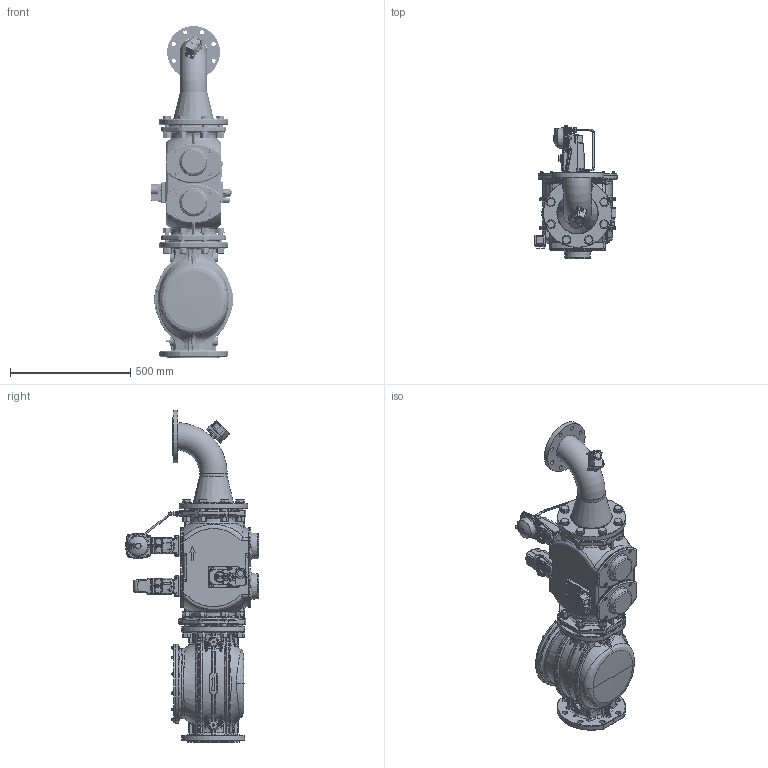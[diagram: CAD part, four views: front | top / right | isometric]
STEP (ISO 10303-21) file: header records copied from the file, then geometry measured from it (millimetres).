
FILE_DESCRIPTION (( 'STEP AP214' ), '1' );
FILE_NAME ('19990626.STEP', '2025-02-20T11:35:21', ( '' ), ( '' ), 'SwSTEP 2.0', 'SolidWorks 2021', '' );
FILE_SCHEMA (( 'AUTOMOTIVE_DESIGN' ));
Length unit declared in the file: millimetre
Products named in the file (1): 19990626
Bounding box: 341.2 x 553.8 x 1381.4 mm (x, y, z)
Volume: 40978235.9 mm3; surface area: 3328649.6 mm2
Topology: 120 solids, 145 shells, 8088 faces, 19527 edges, 11918 vertices
Faces by surface type: plane 2412, cylinder 2259, bspline 2244, cone 824, torus 289, sphere 60
Full cylindrical faces by diameter (mm): 1.5 x2, 2 x2, 3 x1, 3.1 x1, 3.838 x3, 4 x6, 4.2 x1, 4.3 x12, 4.35 x4, 4.351 x4, 4.8 x1, 5 x10, 5.795 x8, 5.9 x1, 6 x8, 6.2 x1, 6.4 x4, 6.8 x12, 7 x4, 7.794 x16, 8 x32, 8.3 x16, 8.5 x14, 8.55 x1, 8.8 x1, 9 x12, 9.5 x1, 9.73 x1, 9.917 x12, 10 x10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
Entity records: 487846 total; most frequent: CARTESIAN_POINT 237060, ORIENTED_EDGE 35702, DIRECTION 27582, EDGE_CURVE 17851, VERTEX_POINT 11433, AXIS2_PLACEMENT_3D 10942, EDGE_LOOP 9938, FACE_OUTER_BOUND 8856
